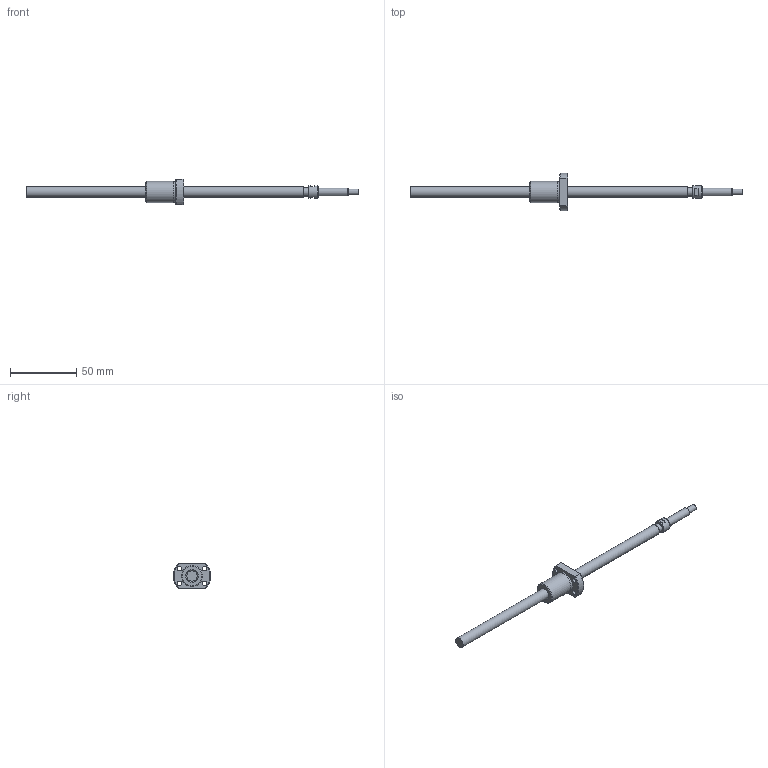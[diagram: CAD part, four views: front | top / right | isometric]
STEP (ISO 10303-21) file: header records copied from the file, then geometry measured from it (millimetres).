
FILE_DESCRIPTION(/* description */ ('STEP AP214'),/* implementation_level */ '2;1');
FILE_NAME(/* name */ 'NSGF0805Z-209R250C3-0-T-S-T-A-(90.25-S)',/* time_stamp */ '2026-08-24T20:12:41+02:00',/* author */ ('License CC BY-ND 4.0'),/* organization */ ('CADENAS'),/* preprocessor_version */ 'ST-DEVELOPER v20',/* originating_system */ 'PARTsolutions',/* authorisation */ ' ');
FILE_SCHEMA (('AUTOMOTIVE_DESIGN {1 0 10303 214 3 1 1}'));
Length unit declared in the file: millimetre
Products named in the file (3): NSGF0805Z-209R250C3-0-T-S-T-A-(90.25-S); NSG0805Z-209R25030.5_(T-S_T-A_2)-2; NSGF0805Z-1
Assembly tree (2 placements, depth 2):
  NSGF0805Z-209R250C3-0-T-S-T-A-(90.25-S)
    NSG0805Z-209R25030.5_(T-S_T-A_2)-2
    NSGF0805Z-1
Bounding box: 250 x 27.9 x 19 mm (x, y, z)
Volume: 17011.2 mm3; surface area: 9721.1 mm2
Topology: 2 solids, 2 shells, 43 faces, 89 edges, 59 vertices
Faces by surface type: plane 19, cylinder 15, cone 8, torus 1
Full cylindrical faces by diameter (mm): 3.4 x4, 4.5 x1, 6 x1, 6.3 x1, 8 x2, 9.5 x1, 15.5 x1, 16 x2
Entity records: 1135 total; most frequent: DIRECTION 194, CARTESIAN_POINT 192, ORIENTED_EDGE 134, AXIS2_PLACEMENT_3D 89, EDGE_LOOP 80, FACE_BOUND 80, EDGE_CURVE 67, VERTEX_POINT 55
